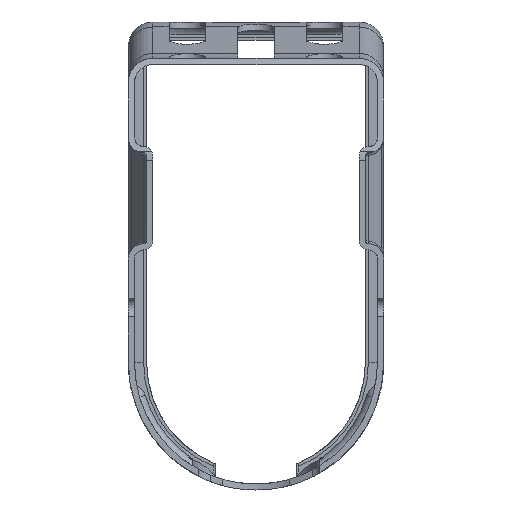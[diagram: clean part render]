
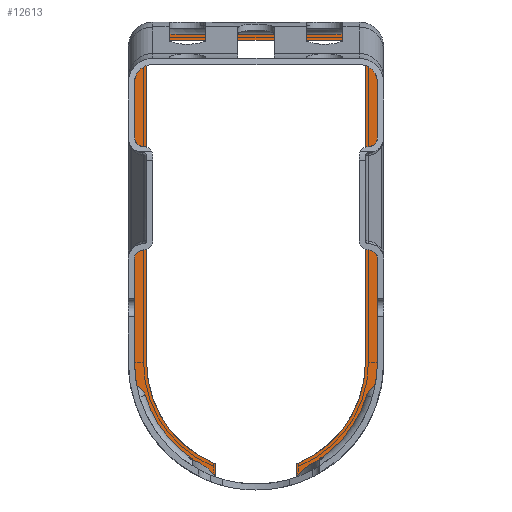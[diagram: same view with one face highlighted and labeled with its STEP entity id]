
A CAD part, left-side view. The second image highlights one B-rep face of the part: STEP entity #12613.
In plain terms, the highlighted planar face has unit normal (-1, 0, 0).
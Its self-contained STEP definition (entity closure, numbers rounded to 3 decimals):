
#1054=CIRCLE('',#12982,20.);
#1056=CIRCLE('',#12986,20.);
#1135=CIRCLE('',#13154,18.);
#1152=CIRCLE('',#13211,1.);
#1154=CIRCLE('',#13216,1.);
#1214=CIRCLE('',#13556,18.);
#1239=CIRCLE('',#13626,3.);
#1244=CIRCLE('',#13635,3.);
#1926=FACE_OUTER_BOUND('',#2672,.T.);
#2672=EDGE_LOOP('',(#11701,#11702,#11703,#11704,#11705,#11706,#11707,#11708,
#11709,#11710,#11711,#11712,#11713,#11714,#11715,#11716));
#2755=LINE('',#18680,#3829);
#2824=LINE('',#18957,#3898);
#3277=LINE('',#21528,#4351);
#3312=LINE('',#21625,#4386);
#3373=LINE('',#22245,#4447);
#3699=LINE('',#23140,#4773);
#3707=LINE('',#23223,#4781);
#3716=LINE('',#23426,#4790);
#3829=VECTOR('',#13905,10.);
#3898=VECTOR('',#14108,10.);
#4351=VECTOR('',#15321,10.);
#4386=VECTOR('',#15422,10.);
#4447=VECTOR('',#15629,10.);
#4773=VECTOR('',#16645,10.);
#4781=VECTOR('',#16711,10.);
#4790=VECTOR('',#16758,10.);
#5010=VERTEX_POINT('',#18677);
#5011=VERTEX_POINT('',#18679);
#5131=VERTEX_POINT('',#18954);
#5132=VERTEX_POINT('',#18956);
#5560=VERTEX_POINT('',#20328);
#5567=VERTEX_POINT('',#20360);
#5779=VERTEX_POINT('',#21527);
#5808=VERTEX_POINT('',#21623);
#5809=VERTEX_POINT('',#21653);
#5859=VERTEX_POINT('',#22238);
#5860=VERTEX_POINT('',#22239);
#5861=VERTEX_POINT('',#22244);
#5862=VERTEX_POINT('',#22250);
#5979=VERTEX_POINT('',#23136);
#6001=VERTEX_POINT('',#23424);
#6002=VERTEX_POINT('',#23425);
#6254=EDGE_CURVE('',#5011,#5010,#2755,.T.);
#6385=EDGE_CURVE('',#5132,#5131,#2824,.T.);
#6918=EDGE_CURVE('',#5560,#5132,#1054,.T.);
#6926=EDGE_CURVE('',#5010,#5567,#1056,.T.);
#7182=EDGE_CURVE('',#5560,#5779,#3277,.T.);
#7231=EDGE_CURVE('',#5567,#5808,#3312,.T.);
#7246=EDGE_CURVE('',#5809,#5808,#1135,.T.);
#7349=EDGE_CURVE('',#5859,#5860,#1152,.T.);
#7352=EDGE_CURVE('',#5860,#5861,#3373,.T.);
#7355=EDGE_CURVE('',#5861,#5862,#1154,.T.);
#7752=EDGE_CURVE('',#5779,#5979,#1214,.T.);
#7754=EDGE_CURVE('',#5979,#5859,#3699,.T.);
#7778=EDGE_CURVE('',#5862,#5809,#3707,.T.);
#7801=EDGE_CURVE('',#6001,#6002,#3716,.T.);
#7825=EDGE_CURVE('',#6002,#5011,#1239,.T.);
#7831=EDGE_CURVE('',#5131,#6001,#1244,.T.);
#11701=ORIENTED_EDGE('',*,*,#7801,.T.);
#11702=ORIENTED_EDGE('',*,*,#7825,.T.);
#11703=ORIENTED_EDGE('',*,*,#6254,.T.);
#11704=ORIENTED_EDGE('',*,*,#6926,.T.);
#11705=ORIENTED_EDGE('',*,*,#7231,.T.);
#11706=ORIENTED_EDGE('',*,*,#7246,.F.);
#11707=ORIENTED_EDGE('',*,*,#7778,.F.);
#11708=ORIENTED_EDGE('',*,*,#7355,.F.);
#11709=ORIENTED_EDGE('',*,*,#7352,.F.);
#11710=ORIENTED_EDGE('',*,*,#7349,.F.);
#11711=ORIENTED_EDGE('',*,*,#7754,.F.);
#11712=ORIENTED_EDGE('',*,*,#7752,.F.);
#11713=ORIENTED_EDGE('',*,*,#7182,.F.);
#11714=ORIENTED_EDGE('',*,*,#6918,.T.);
#11715=ORIENTED_EDGE('',*,*,#6385,.T.);
#11716=ORIENTED_EDGE('',*,*,#7831,.T.);
#11988=PLANE('',#13756);
#12613=ADVANCED_FACE('',(#1926),#11988,.T.);
#12982=AXIS2_PLACEMENT_3D('',#20329,#14954,#14955);
#12986=AXIS2_PLACEMENT_3D('',#20362,#14964,#14965);
#13154=AXIS2_PLACEMENT_3D('',#21655,#15465,#15466);
#13211=AXIS2_PLACEMENT_3D('',#22240,#15623,#15624);
#13216=AXIS2_PLACEMENT_3D('',#22251,#15637,#15638);
#13556=AXIS2_PLACEMENT_3D('',#23137,#16640,#16641);
#13626=AXIS2_PLACEMENT_3D('',#23627,#16807,#16808);
#13635=AXIS2_PLACEMENT_3D('',#23638,#16826,#16827);
#13756=AXIS2_PLACEMENT_3D('',#24567,#17089,#17090);
#13905=DIRECTION('',(0.,0.,-1.));
#14108=DIRECTION('',(0.,0.,1.));
#14954=DIRECTION('center_axis',(-1.,0.,0.));
#14955=DIRECTION('ref_axis',(0.,-1.,0.));
#14964=DIRECTION('center_axis',(-1.,0.,0.));
#14965=DIRECTION('ref_axis',(0.,-1.,0.));
#15321=DIRECTION('',(0.,0.,1.));
#15422=DIRECTION('',(0.,0.,1.));
#15465=DIRECTION('center_axis',(-1.,0.,0.));
#15466=DIRECTION('ref_axis',(0.,-1.,0.));
#15623=DIRECTION('center_axis',(-1.,0.,0.));
#15624=DIRECTION('ref_axis',(0.,-0.707,0.707));
#15629=DIRECTION('',(0.,1.,0.));
#15637=DIRECTION('center_axis',(-1.,0.,0.));
#15638=DIRECTION('ref_axis',(0.,0.707,0.707));
#16640=DIRECTION('center_axis',(-1.,0.,0.));
#16641=DIRECTION('ref_axis',(0.,-1.,0.));
#16645=DIRECTION('',(0.,0.,1.));
#16711=DIRECTION('',(0.,0.,-1.));
#16758=DIRECTION('',(0.,1.,0.));
#16807=DIRECTION('center_axis',(-1.,0.,0.));
#16808=DIRECTION('ref_axis',(0.,0.707,0.707));
#16826=DIRECTION('center_axis',(-1.,0.,0.));
#16827=DIRECTION('ref_axis',(0.,-0.707,0.707));
#17089=DIRECTION('center_axis',(-1.,0.,0.));
#17090=DIRECTION('ref_axis',(0.,0.,1.));
#18677=CARTESIAN_POINT('',(333.,41.,21.));
#18679=CARTESIAN_POINT('',(333.,41.,73.));
#18680=CARTESIAN_POINT('',(333.,41.,49.));
#18954=CARTESIAN_POINT('',(333.,1.,73.));
#18956=CARTESIAN_POINT('',(333.,1.,21.));
#18957=CARTESIAN_POINT('',(333.,1.,74.));
#20328=CARTESIAN_POINT('',(333.,14.375,2.129));
#20329=CARTESIAN_POINT('Origin',(333.,21.,21.));
#20360=CARTESIAN_POINT('',(333.,27.625,2.129));
#20362=CARTESIAN_POINT('Origin',(333.,21.,21.));
#21527=CARTESIAN_POINT('',(333.,14.375,4.264));
#21528=CARTESIAN_POINT('',(333.,14.375,4.717));
#21623=CARTESIAN_POINT('',(333.,27.625,4.264));
#21625=CARTESIAN_POINT('',(333.,27.625,4.717));
#21653=CARTESIAN_POINT('',(333.,39.,21.));
#21655=CARTESIAN_POINT('Origin',(333.,21.,21.));
#22238=CARTESIAN_POINT('',(333.,3.,73.));
#22239=CARTESIAN_POINT('',(333.,4.,74.));
#22240=CARTESIAN_POINT('Origin',(333.,4.,73.));
#22244=CARTESIAN_POINT('',(333.,38.,74.));
#22245=CARTESIAN_POINT('',(333.,29.505,74.));
#22250=CARTESIAN_POINT('',(333.,39.,73.));
#22251=CARTESIAN_POINT('Origin',(333.,38.,73.));
#23136=CARTESIAN_POINT('',(333.,3.,21.));
#23137=CARTESIAN_POINT('Origin',(333.,21.,21.));
#23140=CARTESIAN_POINT('',(333.,3.,74.));
#23223=CARTESIAN_POINT('',(333.,39.,49.));
#23424=CARTESIAN_POINT('',(333.,4.,76.));
#23425=CARTESIAN_POINT('',(333.,38.,76.));
#23426=CARTESIAN_POINT('',(333.,29.505,76.));
#23627=CARTESIAN_POINT('Origin',(333.,38.,73.));
#23638=CARTESIAN_POINT('Origin',(333.,4.,73.));
#24567=CARTESIAN_POINT('Origin',(333.,21.,76.));
